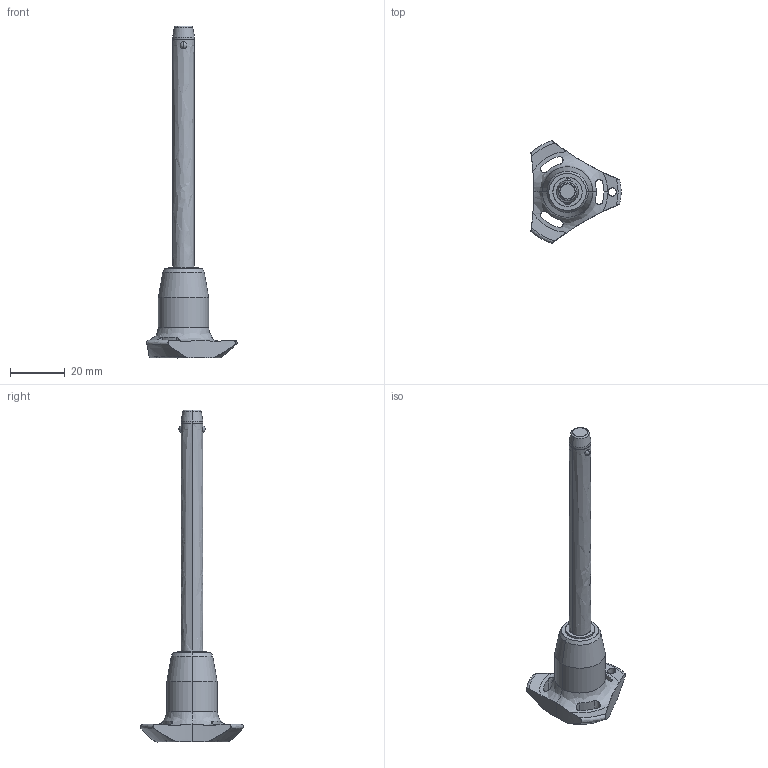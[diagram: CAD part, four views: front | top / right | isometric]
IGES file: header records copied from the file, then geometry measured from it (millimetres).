
Start section: SolidWorks IGES file using analytic representation for surfaces
Global section: file name: C:\Users\ianosborn\Desktop\QR1716_v2\QR1716_v2_20251114_IGES\QR1716.M08-080-T.igs; native system: SolidWorks 2019; preprocessor: SolidWorks 2019; author: IanOsborn; date: 251113.103135; units: millimetre
Bounding box: 33 x 37.51 x 121.5 mm (x, y, z)
Surface area: 5994.5 mm2 (no closed solid volume)
Topology: 0 solids, 0 shells, 68 faces, 1344 edges, 1337 vertices
Faces by surface type: revolution 52, bspline 16
